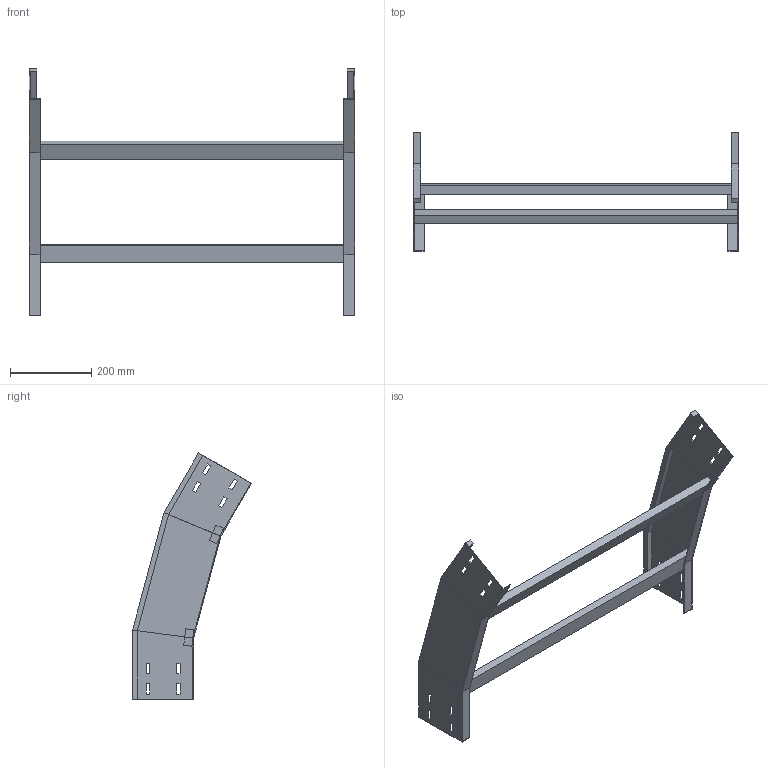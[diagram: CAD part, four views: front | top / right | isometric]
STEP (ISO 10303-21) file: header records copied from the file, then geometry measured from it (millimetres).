
FILE_DESCRIPTION (( 'STEP AP214' ), '1' );
FILE_NAME ('35J5F800.step', '2025-02-21T16:21:47', ( '' ), ( '' ), 'SwSTEP 2.0', 'SolidWorks 2023', '' );
FILE_SCHEMA (( 'AUTOMOTIVE_DESIGN' ));
Length unit declared in the file: millimetre
Products named in the file (3): 35J5F800; LONGH.DISCESA_30°_H150_R500; TRAVERSINO_800
Assembly tree (4 placements, depth 2):
  35J5F800
    LONGH.DISCESA_30°_H150_R500  x2
    TRAVERSINO_800  x2
Bounding box: 800 x 292.03 x 605.08 mm (x, y, z)
Volume: 1941145.5 mm3; surface area: 653483.3 mm2
Topology: 4 solids, 4 shells, 128 faces, 328 edges, 208 vertices
Faces by surface type: plane 128
Entity records: 2016 total; most frequent: CARTESIAN_POINT 339, ORIENTED_EDGE 328, DIRECTION 306, LINE 164, EDGE_CURVE 164, VECTOR 164, VERTEX_POINT 104, EDGE_LOOP 80
